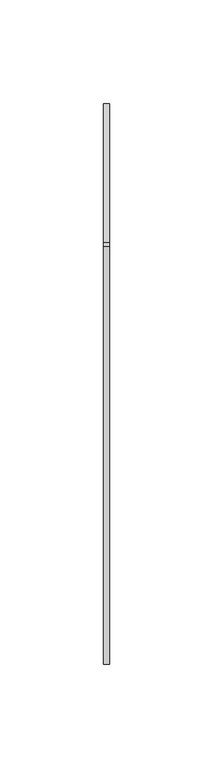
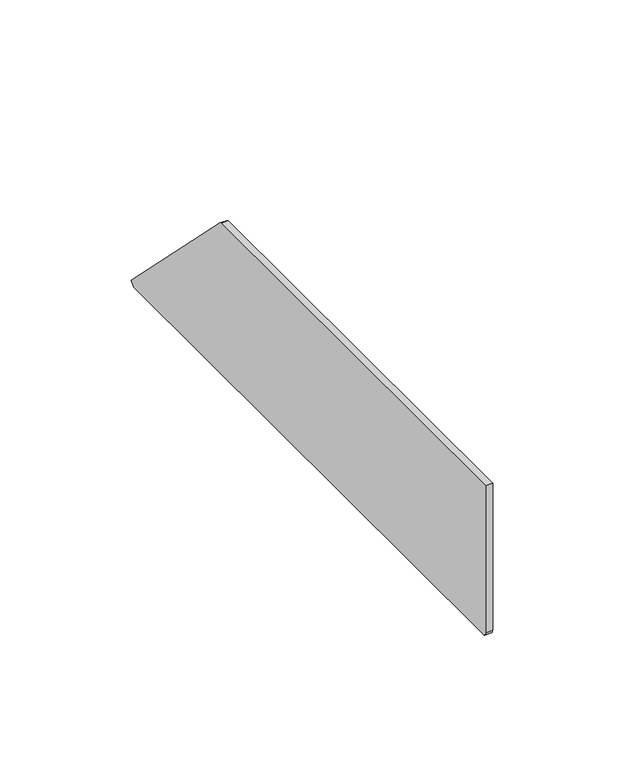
"""IFC4 building model written with IfcOpenShell, lengths in millimetres: cable carrier fitting geometry, Electrical_Installation_Hager_End-Piece : Electrical_Installation_Hager_End-Piece."""

from ifc_helpers import new_model, si_unit, point, frame, frame_2d, origin, place, context, project, spatial, polyline, circle_curve, trimmed, segment, composite_curve, outline, extrude, source, transform, mapped, element, save


def cable_carrier_fitting_d6a7fd45(model_context):
    return source(origin(), model_context, "Body", "SweptSolid", [
        extrude(outline(composite_curve([segment(polyline([(-100.0, -33.0), (-100.0, 35.5), (101.7124549, 35.5)]), True, "CONTINUOUS"), segment(trimmed(circle_curve(frame_2d((100.5004738, 31.6648514)), 4.0220969), [point((101.7124549, 35.5))], [point((103.5142136, 34.3284271))], False, "CARTESIAN"), True, "CONTINUOUS"), segment(polyline([(103.5142136, 34.3284271), (170.7213203, -32.8786797), (168.6, -35.0), (-98.0, -35.0)]), True, "CONTINUOUS"), segment(trimmed(circle_curve(frame_2d((-98.0, -33.0)), 2.0), [point((-98.0, -35.0))], [point((-100.0, -33.0))], False, "CARTESIAN"), True, "CONTINUOUS")], self_intersect=False)), frame((0.0, 0.0, 0.0), z_axis=(1.0, 0.0, 0.0), x_axis=(0.0, 1.0, 0.0)), (0.0, 0.0, 1.0), 3.0),
    ])


if __name__ == "__main__":
    model = new_model("IFC4")
    model_context = context("Model", 3, world=origin())
    ifc_project = project(units=[si_unit("LENGTHUNIT", "METRE", prefix="MILLI")], contexts=[model_context])
    site = spatial("IfcSite", under=ifc_project)
    building = spatial("IfcBuilding", under=site)
    placement = place(None, origin())
    cable_carrier_fitting_shape = cable_carrier_fitting_d6a7fd45(model_context)
    element("IfcCableCarrierFitting", 1, ObjectType="Electrical_Installation_Hager_End-Piece : Electrical_Installation_Hager_End-Piece", at=placement, inside=building, context=model_context, shape_type="MappedRepresentation", body=[
        mapped(cable_carrier_fitting_shape, transform((0.0, 0.0, 0.0), x_axis=(1.0, 0.0, 0.0), y_axis=(0.0, 1.0, 0.0), z_axis=(0.0, 0.0, 1.0))),
    ])
    save(model, "model.ifc")
